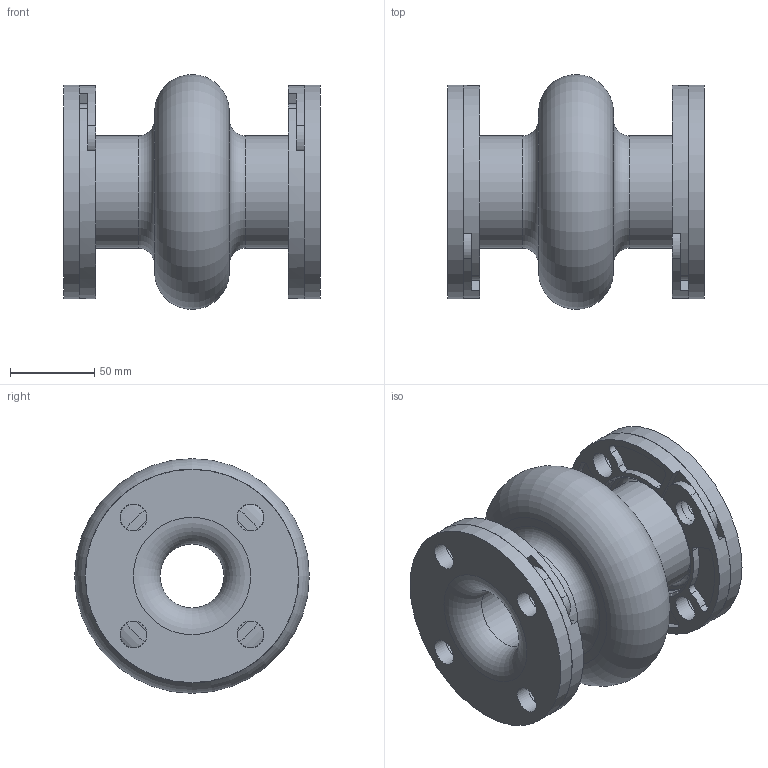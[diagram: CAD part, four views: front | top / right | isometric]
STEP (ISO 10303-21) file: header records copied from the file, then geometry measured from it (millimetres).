
FILE_DESCRIPTION(/* description */ (''),/* implementation_level */ '2;1');
FILE_NAME(/* name */ 'C:\001_Work\Designs\Mercer2014\MQInventor2014\RajR\500 Style\501\New folder\501 1.5IDx6FF.stp',/* time_stamp */ '2016-03-26T14:42:56-04:00',/* author */ ('rramoutar'),/* organization */ ('Mason Industries Inc.'),/* preprocessor_version */ 'ST-DEVELOPER v15.6',/* originating_system */ 'Autodesk Inventor 2015',/* authorisation */ '');
FILE_SCHEMA (('CONFIG_CONTROL_DESIGN'));
Length unit declared in the file: inch
Products named in the file (3): 501 1.5IDx6FF; 1.5DI500BUR150-OP
Assembly tree (5 placements, depth 2):
  501 1.5IDx6FF
    501 1.5IDx6FF
    1.5DI500BUR150-OP  x4
Bounding box: 152.4 x 139.66 x 139.66 mm (x, y, z)
Volume: 896048.5 mm3; surface area: 192346 mm2
Topology: 5 solids, 5 shells, 178 faces, 464 edges, 306 vertices
Faces by surface type: cylinder 106, plane 52, torus 16, cone 4
Full cylindrical faces by diameter (mm): 15.875 x20, 38.1 x2, 66.675 x2, 127 x2
Entity records: 2067 total; most frequent: DIRECTION 370, CARTESIAN_POINT 355, ORIENTED_EDGE 268, AXIS2_PLACEMENT_3D 165, EDGE_CURVE 134, EDGE_LOOP 124, VERTEX_POINT 104, CIRCLE 90
